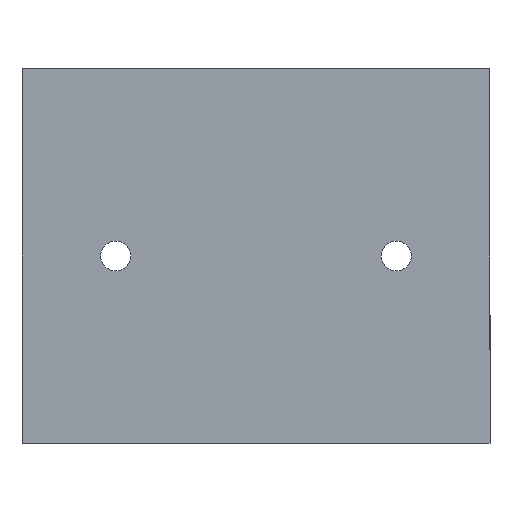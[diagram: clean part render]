
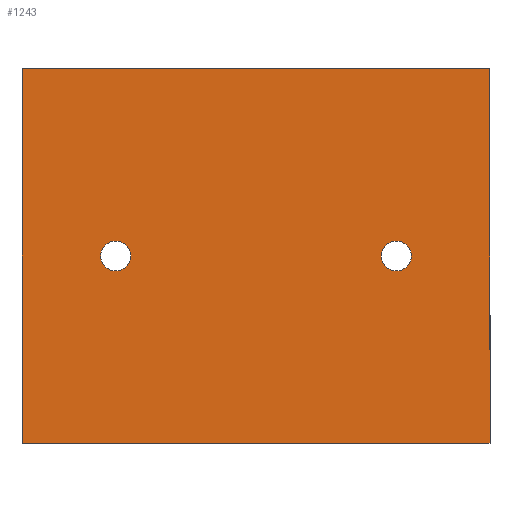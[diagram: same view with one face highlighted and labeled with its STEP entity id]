
A CAD part, left-side view. The second image highlights one B-rep face of the part: STEP entity #1243.
In plain terms, the highlighted planar face has unit normal (-1, 0, 0).
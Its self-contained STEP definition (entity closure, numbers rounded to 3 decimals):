
#153 = PLANE('',#154);
#154 = AXIS2_PLACEMENT_3D('',#155,#156,#157);
#155 = CARTESIAN_POINT('',(-5.,17.,25.));
#156 = DIRECTION('',(0.,0.,-1.));
#157 = DIRECTION('',(0.,1.,0.));
#207 = PLANE('',#208);
#208 = AXIS2_PLACEMENT_3D('',#209,#210,#211);
#209 = CARTESIAN_POINT('',(-5.,17.,-25.));
#210 = DIRECTION('',(0.,0.,-1.));
#211 = DIRECTION('',(0.,1.,0.));
#260 = CYLINDRICAL_SURFACE('',#261,1.6);
#261 = AXIS2_PLACEMENT_3D('',#262,#263,#264);
#262 = CARTESIAN_POINT('',(-7.,0.,-15.));
#263 = DIRECTION('',(1.,0.,0.));
#264 = DIRECTION('',(0.,1.,0.));
#313 = CYLINDRICAL_SURFACE('',#314,1.6);
#314 = AXIS2_PLACEMENT_3D('',#315,#316,#317);
#315 = CARTESIAN_POINT('',(-7.,0.,15.));
#316 = DIRECTION('',(1.,0.,0.));
#317 = DIRECTION('',(0.,1.,0.));
#473 = VERTEX_POINT('',#474);
#474 = CARTESIAN_POINT('',(-10.,20.,-25.));
#488 = PLANE('',#489);
#489 = AXIS2_PLACEMENT_3D('',#490,#491,#492);
#490 = CARTESIAN_POINT('',(10.,20.,-25.));
#491 = DIRECTION('',(0.,-1.,0.));
#492 = DIRECTION('',(-1.,0.,0.));
#500 = EDGE_CURVE('',#473,#501,#503,.T.);
#501 = VERTEX_POINT('',#502);
#502 = CARTESIAN_POINT('',(-10.,-20.,-25.));
#503 = SURFACE_CURVE('',#504,(#508,#515),.PCURVE_S1.);
#504 = LINE('',#505,#506);
#505 = CARTESIAN_POINT('',(-10.,20.,-25.));
#506 = VECTOR('',#507,1.);
#507 = DIRECTION('',(0.,-1.,0.));
#508 = PCURVE('',#207,#509);
#509 = DEFINITIONAL_REPRESENTATION('',(#510),#514);
#510 = LINE('',#511,#512);
#511 = CARTESIAN_POINT('',(3.,-5.));
#512 = VECTOR('',#513,1.);
#513 = DIRECTION('',(-1.,0.));
#514 = ( GEOMETRIC_REPRESENTATION_CONTEXT(2) 
PARAMETRIC_REPRESENTATION_CONTEXT() REPRESENTATION_CONTEXT('2D SPACE',''
  ) );
#515 = PCURVE('',#516,#521);
#516 = PLANE('',#517);
#517 = AXIS2_PLACEMENT_3D('',#518,#519,#520);
#518 = CARTESIAN_POINT('',(-10.,20.,-25.));
#519 = DIRECTION('',(1.,0.,0.));
#520 = DIRECTION('',(0.,-1.,0.));
#521 = DEFINITIONAL_REPRESENTATION('',(#522),#526);
#522 = LINE('',#523,#524);
#523 = CARTESIAN_POINT('',(0.,0.));
#524 = VECTOR('',#525,1.);
#525 = DIRECTION('',(1.,0.));
#526 = ( GEOMETRIC_REPRESENTATION_CONTEXT(2) 
PARAMETRIC_REPRESENTATION_CONTEXT() REPRESENTATION_CONTEXT('2D SPACE',''
  ) );
#544 = PLANE('',#545);
#545 = AXIS2_PLACEMENT_3D('',#546,#547,#548);
#546 = CARTESIAN_POINT('',(-10.,-20.,-25.));
#547 = DIRECTION('',(0.,1.,0.));
#548 = DIRECTION('',(1.,0.,0.));
#685 = VERTEX_POINT('',#686);
#686 = CARTESIAN_POINT('',(-10.,20.,25.));
#707 = EDGE_CURVE('',#685,#708,#710,.T.);
#708 = VERTEX_POINT('',#709);
#709 = CARTESIAN_POINT('',(-10.,-20.,25.));
#710 = SURFACE_CURVE('',#711,(#715,#722),.PCURVE_S1.);
#711 = LINE('',#712,#713);
#712 = CARTESIAN_POINT('',(-10.,20.,25.));
#713 = VECTOR('',#714,1.);
#714 = DIRECTION('',(0.,-1.,0.));
#715 = PCURVE('',#153,#716);
#716 = DEFINITIONAL_REPRESENTATION('',(#717),#721);
#717 = LINE('',#718,#719);
#718 = CARTESIAN_POINT('',(3.,-5.));
#719 = VECTOR('',#720,1.);
#720 = DIRECTION('',(-1.,0.));
#721 = ( GEOMETRIC_REPRESENTATION_CONTEXT(2) 
PARAMETRIC_REPRESENTATION_CONTEXT() REPRESENTATION_CONTEXT('2D SPACE',''
  ) );
#722 = PCURVE('',#516,#723);
#723 = DEFINITIONAL_REPRESENTATION('',(#724),#728);
#724 = LINE('',#725,#726);
#725 = CARTESIAN_POINT('',(0.,-50.));
#726 = VECTOR('',#727,1.);
#727 = DIRECTION('',(1.,0.));
#728 = ( GEOMETRIC_REPRESENTATION_CONTEXT(2) 
PARAMETRIC_REPRESENTATION_CONTEXT() REPRESENTATION_CONTEXT('2D SPACE',''
  ) );
#856 = VERTEX_POINT('',#857);
#857 = CARTESIAN_POINT('',(-10.,1.6,-15.));
#880 = EDGE_CURVE('',#856,#856,#881,.T.);
#881 = SURFACE_CURVE('',#882,(#887,#894),.PCURVE_S1.);
#882 = CIRCLE('',#883,1.6);
#883 = AXIS2_PLACEMENT_3D('',#884,#885,#886);
#884 = CARTESIAN_POINT('',(-10.,0.,-15.));
#885 = DIRECTION('',(1.,0.,0.));
#886 = DIRECTION('',(0.,1.,0.));
#887 = PCURVE('',#260,#888);
#888 = DEFINITIONAL_REPRESENTATION('',(#889),#893);
#889 = LINE('',#890,#891);
#890 = CARTESIAN_POINT('',(0.,-3.));
#891 = VECTOR('',#892,1.);
#892 = DIRECTION('',(1.,0.));
#893 = ( GEOMETRIC_REPRESENTATION_CONTEXT(2) 
PARAMETRIC_REPRESENTATION_CONTEXT() REPRESENTATION_CONTEXT('2D SPACE',''
  ) );
#894 = PCURVE('',#516,#895);
#895 = DEFINITIONAL_REPRESENTATION('',(#896),#900);
#896 = CIRCLE('',#897,1.6);
#897 = AXIS2_PLACEMENT_2D('',#898,#899);
#898 = CARTESIAN_POINT('',(20.,-10.));
#899 = DIRECTION('',(-1.,0.));
#900 = ( GEOMETRIC_REPRESENTATION_CONTEXT(2) 
PARAMETRIC_REPRESENTATION_CONTEXT() REPRESENTATION_CONTEXT('2D SPACE',''
  ) );
#906 = VERTEX_POINT('',#907);
#907 = CARTESIAN_POINT('',(-10.,1.6,15.));
#930 = EDGE_CURVE('',#906,#906,#931,.T.);
#931 = SURFACE_CURVE('',#932,(#937,#944),.PCURVE_S1.);
#932 = CIRCLE('',#933,1.6);
#933 = AXIS2_PLACEMENT_3D('',#934,#935,#936);
#934 = CARTESIAN_POINT('',(-10.,0.,15.));
#935 = DIRECTION('',(1.,0.,0.));
#936 = DIRECTION('',(0.,1.,0.));
#937 = PCURVE('',#313,#938);
#938 = DEFINITIONAL_REPRESENTATION('',(#939),#943);
#939 = LINE('',#940,#941);
#940 = CARTESIAN_POINT('',(0.,-3.));
#941 = VECTOR('',#942,1.);
#942 = DIRECTION('',(1.,0.));
#943 = ( GEOMETRIC_REPRESENTATION_CONTEXT(2) 
PARAMETRIC_REPRESENTATION_CONTEXT() REPRESENTATION_CONTEXT('2D SPACE',''
  ) );
#944 = PCURVE('',#516,#945);
#945 = DEFINITIONAL_REPRESENTATION('',(#946),#950);
#946 = CIRCLE('',#947,1.6);
#947 = AXIS2_PLACEMENT_2D('',#948,#949);
#948 = CARTESIAN_POINT('',(20.,-40.));
#949 = DIRECTION('',(-1.,0.));
#950 = ( GEOMETRIC_REPRESENTATION_CONTEXT(2) 
PARAMETRIC_REPRESENTATION_CONTEXT() REPRESENTATION_CONTEXT('2D SPACE',''
  ) );
#1162 = EDGE_CURVE('',#473,#685,#1163,.T.);
#1163 = SURFACE_CURVE('',#1164,(#1168,#1175),.PCURVE_S1.);
#1164 = LINE('',#1165,#1166);
#1165 = CARTESIAN_POINT('',(-10.,20.,-25.));
#1166 = VECTOR('',#1167,1.);
#1167 = DIRECTION('',(0.,0.,1.));
#1168 = PCURVE('',#488,#1169);
#1169 = DEFINITIONAL_REPRESENTATION('',(#1170),#1174);
#1170 = LINE('',#1171,#1172);
#1171 = CARTESIAN_POINT('',(20.,0.));
#1172 = VECTOR('',#1173,1.);
#1173 = DIRECTION('',(0.,-1.));
#1174 = ( GEOMETRIC_REPRESENTATION_CONTEXT(2) 
PARAMETRIC_REPRESENTATION_CONTEXT() REPRESENTATION_CONTEXT('2D SPACE',''
  ) );
#1175 = PCURVE('',#516,#1176);
#1176 = DEFINITIONAL_REPRESENTATION('',(#1177),#1181);
#1177 = LINE('',#1178,#1179);
#1178 = CARTESIAN_POINT('',(0.,0.));
#1179 = VECTOR('',#1180,1.);
#1180 = DIRECTION('',(0.,-1.));
#1181 = ( GEOMETRIC_REPRESENTATION_CONTEXT(2) 
PARAMETRIC_REPRESENTATION_CONTEXT() REPRESENTATION_CONTEXT('2D SPACE',''
  ) );
#1243 = ADVANCED_FACE('',(#1244,#1270,#1273),#516,.F.);
#1244 = FACE_BOUND('',#1245,.F.);
#1245 = EDGE_LOOP('',(#1246,#1247,#1248,#1269));
#1246 = ORIENTED_EDGE('',*,*,#1162,.T.);
#1247 = ORIENTED_EDGE('',*,*,#707,.T.);
#1248 = ORIENTED_EDGE('',*,*,#1249,.F.);
#1249 = EDGE_CURVE('',#501,#708,#1250,.T.);
#1250 = SURFACE_CURVE('',#1251,(#1255,#1262),.PCURVE_S1.);
#1251 = LINE('',#1252,#1253);
#1252 = CARTESIAN_POINT('',(-10.,-20.,-25.));
#1253 = VECTOR('',#1254,1.);
#1254 = DIRECTION('',(0.,0.,1.));
#1255 = PCURVE('',#516,#1256);
#1256 = DEFINITIONAL_REPRESENTATION('',(#1257),#1261);
#1257 = LINE('',#1258,#1259);
#1258 = CARTESIAN_POINT('',(40.,0.));
#1259 = VECTOR('',#1260,1.);
#1260 = DIRECTION('',(0.,-1.));
#1261 = ( GEOMETRIC_REPRESENTATION_CONTEXT(2) 
PARAMETRIC_REPRESENTATION_CONTEXT() REPRESENTATION_CONTEXT('2D SPACE',''
  ) );
#1262 = PCURVE('',#544,#1263);
#1263 = DEFINITIONAL_REPRESENTATION('',(#1264),#1268);
#1264 = LINE('',#1265,#1266);
#1265 = CARTESIAN_POINT('',(0.,0.));
#1266 = VECTOR('',#1267,1.);
#1267 = DIRECTION('',(0.,-1.));
#1268 = ( GEOMETRIC_REPRESENTATION_CONTEXT(2) 
PARAMETRIC_REPRESENTATION_CONTEXT() REPRESENTATION_CONTEXT('2D SPACE',''
  ) );
#1269 = ORIENTED_EDGE('',*,*,#500,.F.);
#1270 = FACE_BOUND('',#1271,.F.);
#1271 = EDGE_LOOP('',(#1272));
#1272 = ORIENTED_EDGE('',*,*,#880,.F.);
#1273 = FACE_BOUND('',#1274,.F.);
#1274 = EDGE_LOOP('',(#1275));
#1275 = ORIENTED_EDGE('',*,*,#930,.F.);
